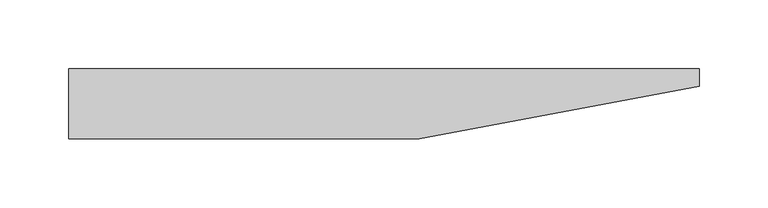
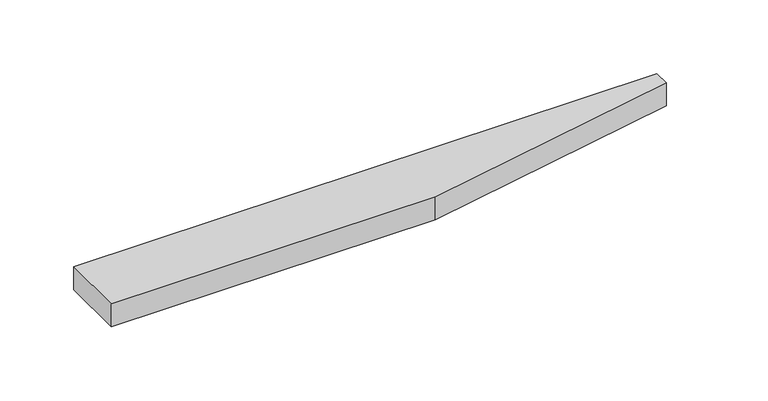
"""IFC4 building model written with IfcOpenShell, lengths in millimetres: proxy geometry, SS LIFT ANGLE_18_LT_OMT_LINAK."""

from ifc_helpers import new_model, si_unit, frame, origin, place, context, project, spatial, polyline, outline, extrude, source, transform, mapped, element, save


def generic_models_b7273189(model_context):
    return source(origin(), model_context, "Body", "SweptSolid", [
        extrude(outline(polyline([(457.2, 0.0), (457.2, -12.7), (254.0, -50.8), (0.0, -50.8), (0.0, 0.0), (457.2, 0.0)])), frame((0.0, 0.0, -19.05), z_axis=(0.0, 0.0, 1.0), x_axis=(1.0, 0.0, 0.0)), (0.0, 0.0, 1.0), 19.05),
    ])


if __name__ == "__main__":
    model = new_model("IFC4")
    model_context = context("Model", 3, world=origin())
    ifc_project = project(units=[si_unit("LENGTHUNIT", "METRE", prefix="MILLI")], contexts=[model_context])
    site = spatial("IfcSite", under=ifc_project)
    building = spatial("IfcBuilding", under=site)
    placement = place(None, origin())
    generic_models_shape = generic_models_b7273189(model_context)
    element("IfcBuildingElementProxy", 1, Name="SS LIFT ANGLE_18_LT_OMT_LINAK", ObjectType="SS LIFT ANGLE_18_LT_OMT_LINAK", at=placement, inside=building, context=model_context, shape_type="MappedRepresentation", body=[
        mapped(generic_models_shape, transform((0.0, 0.0, 0.0), x_axis=(1.0, 0.0, 0.0), y_axis=(0.0, 1.0, 0.0), z_axis=(0.0, 0.0, 1.0))),
    ])
    save(model, "model.ifc")
